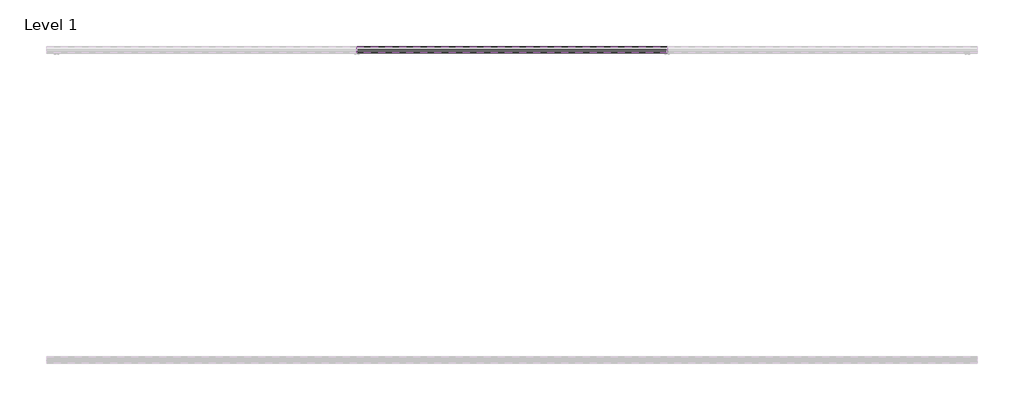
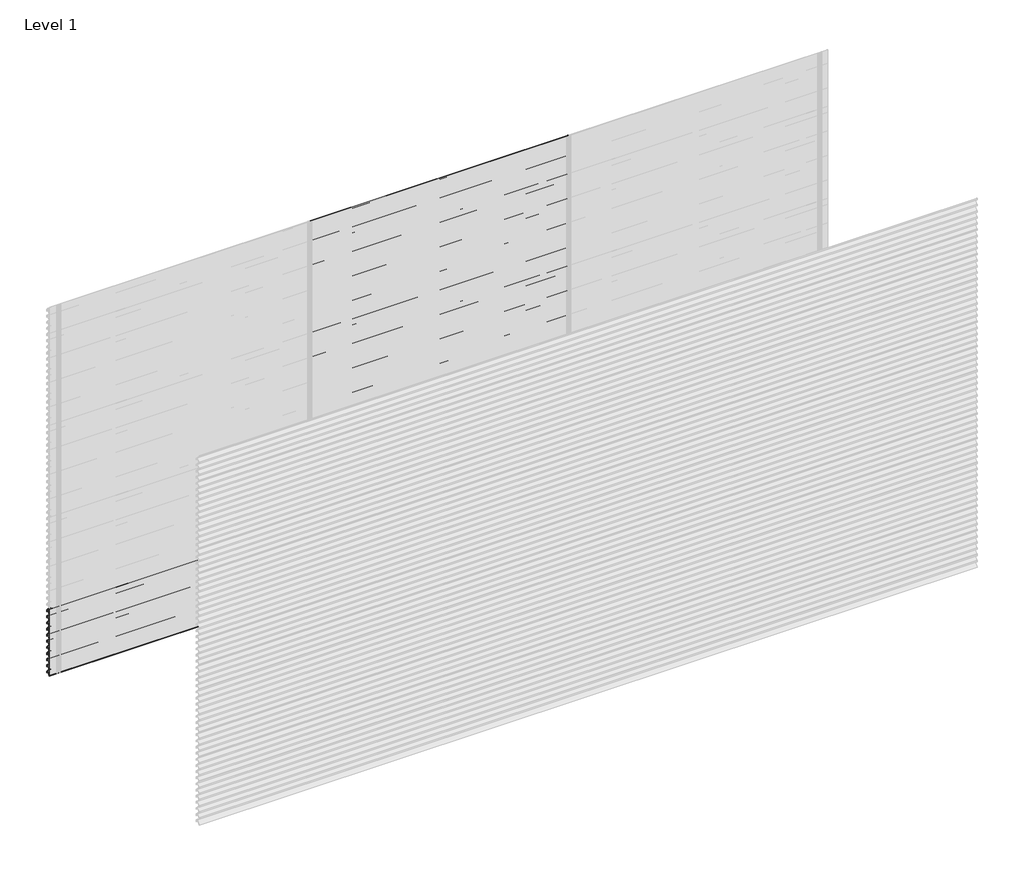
# One storey, part 37 of 38: 71 proxies.
"""IFC4 building model written with IfcOpenShell, lengths in millimetres."""

from ifc_helpers import new_model, si_unit, frame, origin, place, context, project, spatial, polyline, outline, extrude, element, save

model = new_model("IFC4")

# Units and contexts
model_context = context("Model", 3, world=origin())
ifc_project = project(units=[si_unit("LENGTHUNIT", "METRE", prefix="MILLI")], contexts=[model_context])

# Site, building, storey
site = spatial("IfcSite", under=ifc_project)
building = spatial("IfcBuilding", under=site)
storey = spatial("IfcBuildingStorey", under=building, Name="Level 1", Elevation=0.0)

# Proxies
placement = place(None, origin())
element("IfcBuildingElementProxy", 1, Name="Wall Sweeps", at=placement, inside=storey, context=model_context, shape_type="SweptSolid", body=[
    extrude(outline(polyline([(3.25, 550.0), (3.25, 539.19656), (25.3942887, 526.4115489), (43.0, 509.0472005), (43.0, 494.0472005), (41.7, 495.0268207), (41.7, 508.5034593), (30.5085275, 519.541504), (5.7202624, 490.0), (4.0232329, 490.0), (29.5799693, 520.4573323), (24.6000207, 525.3690091), (2.0, 538.4171371), (2.0, 550.0), (3.25, 550.0)])), frame((0.0, 0.0, 0.0), z_axis=(1.0, 0.0, 0.0), x_axis=(0.0, 1.0, 0.0)), (0.0, 0.0, 1.0), 2000.0),
])
element("IfcBuildingElementProxy", 2, Name="Wall Sweeps", at=placement, inside=storey, context=model_context, shape_type="SweptSolid", body=[
    extrude(outline(polyline([(3.25, 500.0), (3.25, 489.19656), (25.3942887, 476.4115489), (43.0, 459.0472005), (43.0, 444.0472005), (41.7, 445.0268207), (41.7, 458.5034593), (30.5085275, 469.541504), (5.7202624, 440.0), (4.0232329, 440.0), (29.5799693, 470.4573323), (24.6000207, 475.3690091), (2.0, 488.4171371), (2.0, 500.0), (3.25, 500.0)])), frame((0.0, 0.0, 0.0), z_axis=(1.0, 0.0, 0.0), x_axis=(0.0, 1.0, 0.0)), (0.0, 0.0, 1.0), 2000.0),
])
element("IfcBuildingElementProxy", 3, Name="Wall Sweeps", at=placement, inside=storey, context=model_context, shape_type="SweptSolid", body=[
    extrude(outline(polyline([(3.25, 450.0), (3.25, 439.19656), (25.3942887, 426.4115489), (43.0, 409.0472005), (43.0, 394.0472005), (41.7, 395.0268207), (41.7, 408.5034593), (30.5085275, 419.541504), (5.7202624, 390.0), (4.0232329, 390.0), (29.5799693, 420.4573323), (24.6000207, 425.3690091), (2.0, 438.4171371), (2.0, 450.0), (3.25, 450.0)])), frame((0.0, 0.0, 0.0), z_axis=(1.0, 0.0, 0.0), x_axis=(0.0, 1.0, 0.0)), (0.0, 0.0, 1.0), 2000.0),
])
element("IfcBuildingElementProxy", 4, Name="Wall Sweeps", at=placement, inside=storey, context=model_context, shape_type="SweptSolid", body=[
    extrude(outline(polyline([(3.25, 400.0), (3.25, 389.19656), (25.3942887, 376.4115489), (43.0, 359.0472005), (43.0, 344.0472005), (41.7, 345.0268207), (41.7, 358.5034593), (30.5085275, 369.541504), (5.7202624, 340.0), (4.0232329, 340.0), (29.5799693, 370.4573323), (24.6000207, 375.3690091), (2.0, 388.4171371), (2.0, 400.0), (3.25, 400.0)])), frame((0.0, 0.0, 0.0), z_axis=(1.0, 0.0, 0.0), x_axis=(0.0, 1.0, 0.0)), (0.0, 0.0, 1.0), 2000.0),
])
element("IfcBuildingElementProxy", 5, Name="Wall Sweeps", at=placement, inside=storey, context=model_context, shape_type="SweptSolid", body=[
    extrude(outline(polyline([(3.25, 350.0), (3.25, 339.19656), (25.3942887, 326.4115489), (43.0, 309.0472005), (43.0, 294.0472005), (41.7, 295.0268207), (41.7, 308.5034593), (30.5085275, 319.541504), (5.7202624, 290.0), (4.0232329, 290.0), (29.5799693, 320.4573323), (24.6000207, 325.3690091), (2.0, 338.4171371), (2.0, 350.0), (3.25, 350.0)])), frame((0.0, 0.0, 0.0), z_axis=(1.0, 0.0, 0.0), x_axis=(0.0, 1.0, 0.0)), (0.0, 0.0, 1.0), 2000.0),
])
element("IfcBuildingElementProxy", 6, Name="Wall Sweeps", at=placement, inside=storey, context=model_context, shape_type="SweptSolid", body=[
    extrude(outline(polyline([(3.25, 300.0), (3.25, 289.19656), (25.3942887, 276.4115489), (43.0, 259.0472005), (43.0, 244.0472005), (41.7, 245.0268207), (41.7, 258.5034593), (30.5085275, 269.541504), (5.7202624, 240.0), (4.0232329, 240.0), (29.5799693, 270.4573323), (24.6000207, 275.3690091), (2.0, 288.4171371), (2.0, 300.0), (3.25, 300.0)])), frame((0.0, 0.0, 0.0), z_axis=(1.0, 0.0, 0.0), x_axis=(0.0, 1.0, 0.0)), (0.0, 0.0, 1.0), 2000.0),
])
element("IfcBuildingElementProxy", 7, Name="Wall Sweeps", at=placement, inside=storey, context=model_context, shape_type="SweptSolid", body=[
    extrude(outline(polyline([(3.25, 250.0), (3.25, 239.19656), (25.3942887, 226.4115489), (43.0, 209.0472005), (43.0, 194.0472005), (41.7, 195.0268207), (41.7, 208.5034593), (30.5085275, 219.541504), (5.7202624, 190.0), (4.0232329, 190.0), (29.5799693, 220.4573323), (24.6000207, 225.3690091), (2.0, 238.4171371), (2.0, 250.0), (3.25, 250.0)])), frame((0.0, 0.0, 0.0), z_axis=(1.0, 0.0, 0.0), x_axis=(0.0, 1.0, 0.0)), (0.0, 0.0, 1.0), 2000.0),
])
element("IfcBuildingElementProxy", 8, Name="Wall Sweeps", at=placement, inside=storey, context=model_context, shape_type="SweptSolid", body=[
    extrude(outline(polyline([(3.25, 200.0), (3.25, 189.19656), (25.3942887, 176.4115489), (43.0, 159.0472005), (43.0, 144.0472005), (41.7, 145.0268207), (41.7, 158.5034593), (30.5085275, 169.541504), (5.7202624, 140.0), (4.0232329, 140.0), (29.5799693, 170.4573323), (24.6000207, 175.3690091), (2.0, 188.4171371), (2.0, 200.0), (3.25, 200.0)])), frame((0.0, 0.0, 0.0), z_axis=(1.0, 0.0, 0.0), x_axis=(0.0, 1.0, 0.0)), (0.0, 0.0, 1.0), 2000.0),
])
element("IfcBuildingElementProxy", 9, Name="Wall Sweeps", at=placement, inside=storey, context=model_context, shape_type="SweptSolid", body=[
    extrude(outline(polyline([(3.25, 150.0), (3.25, 139.19656), (25.3942887, 126.4115489), (43.0, 109.0472005), (43.0, 94.0472005), (41.7, 95.0268207), (41.7, 108.5034593), (30.5085275, 119.541504), (5.7202624, 90.0), (4.0232329, 90.0), (29.5799693, 120.4573323), (24.6000207, 125.3690091), (2.0, 138.4171371), (2.0, 150.0), (3.25, 150.0)])), frame((0.0, 0.0, 0.0), z_axis=(1.0, 0.0, 0.0), x_axis=(0.0, 1.0, 0.0)), (0.0, 0.0, 1.0), 2000.0),
])
element("IfcBuildingElementProxy", 10, Name="Wall Sweeps", at=placement, inside=storey, context=model_context, shape_type="SweptSolid", body=[
    extrude(outline(polyline([(3.25, 100.0), (3.25, 89.19656), (25.3942887, 76.4115489), (43.0, 59.0472005), (43.0, 44.0472005), (41.7, 45.0268207), (41.7, 58.5034593), (30.5085275, 69.541504), (5.7202624, 40.0), (4.0232329, 40.0), (29.5799693, 70.4573323), (24.6000207, 75.3690091), (2.0, 88.4171371), (2.0, 100.0), (3.25, 100.0)])), frame((0.0, 0.0, 0.0), z_axis=(1.0, 0.0, 0.0), x_axis=(0.0, 1.0, 0.0)), (0.0, 0.0, 1.0), 2000.0),
])
element("IfcBuildingElementProxy", 11, Name="Wall Sweeps", at=placement, inside=storey, context=model_context, shape_type="SweptSolid", body=[
    extrude(outline(polyline([(3.25, 50.0), (3.25, 39.19656), (25.3942887, 26.4115489), (43.0, 9.0472005), (43.0, -5.9527995), (41.7, -4.9731793), (41.7, 8.5034593), (30.5085275, 19.541504), (5.7202624, -10.0), (4.0232329, -10.0), (29.5799693, 20.4573323), (24.6000207, 25.3690091), (2.0, 38.4171371), (2.0, 50.0), (3.25, 50.0)])), frame((0.0, 0.0, 0.0), z_axis=(1.0, 0.0, 0.0), x_axis=(0.0, 1.0, 0.0)), (0.0, 0.0, 1.0), 2000.0),
])
element("IfcBuildingElementProxy", 12, Name="Wall Sweeps", at=placement, inside=storey, context=model_context, shape_type="SweptSolid", body=[
    extrude(outline(polyline([(3.25, 3000.0), (3.25, 2989.19656), (25.3942887, 2976.4115489), (43.0, 2959.0472005), (43.0, 2944.0472005), (41.7, 2945.0268207), (41.7, 2958.5034593), (30.5085275, 2969.541504), (5.7202624, 2940.0), (4.0232329, 2940.0), (29.5799693, 2970.4573323), (24.6000207, 2975.3690091), (2.0, 2988.4171371), (2.0, 3000.0), (3.25, 3000.0)])), frame((2000.0, 0.0, 0.0), z_axis=(1.0, 0.0, 0.0), x_axis=(0.0, 1.0, 0.0)), (0.0, 0.0, 1.0), 2000.0),
])
element("IfcBuildingElementProxy", 13, Name="Wall Sweeps", at=placement, inside=storey, context=model_context, shape_type="SweptSolid", body=[
    extrude(outline(polyline([(3.25, 2950.0), (3.25, 2939.19656), (25.3942887, 2926.4115489), (43.0, 2909.0472005), (43.0, 2894.0472005), (41.7, 2895.0268207), (41.7, 2908.5034593), (30.5085275, 2919.541504), (5.7202624, 2890.0), (4.0232329, 2890.0), (29.5799693, 2920.4573323), (24.6000207, 2925.3690091), (2.0, 2938.4171371), (2.0, 2950.0), (3.25, 2950.0)])), frame((2000.0, 0.0, 0.0), z_axis=(1.0, 0.0, 0.0), x_axis=(0.0, 1.0, 0.0)), (0.0, 0.0, 1.0), 2000.0),
])
element("IfcBuildingElementProxy", 14, Name="Wall Sweeps", at=placement, inside=storey, context=model_context, shape_type="SweptSolid", body=[
    extrude(outline(polyline([(3.25, 2900.0), (3.25, 2889.19656), (25.3942887, 2876.4115489), (43.0, 2859.0472005), (43.0, 2844.0472005), (41.7, 2845.0268207), (41.7, 2858.5034593), (30.5085275, 2869.541504), (5.7202624, 2840.0), (4.0232329, 2840.0), (29.5799693, 2870.4573323), (24.6000207, 2875.3690091), (2.0, 2888.4171371), (2.0, 2900.0), (3.25, 2900.0)])), frame((2000.0, 0.0, 0.0), z_axis=(1.0, 0.0, 0.0), x_axis=(0.0, 1.0, 0.0)), (0.0, 0.0, 1.0), 2000.0),
])
element("IfcBuildingElementProxy", 15, Name="Wall Sweeps", at=placement, inside=storey, context=model_context, shape_type="SweptSolid", body=[
    extrude(outline(polyline([(3.25, 2850.0), (3.25, 2839.19656), (25.3942887, 2826.4115489), (43.0, 2809.0472005), (43.0, 2794.0472005), (41.7, 2795.0268207), (41.7, 2808.5034593), (30.5085275, 2819.541504), (5.7202624, 2790.0), (4.0232329, 2790.0), (29.5799693, 2820.4573323), (24.6000207, 2825.3690091), (2.0, 2838.4171371), (2.0, 2850.0), (3.25, 2850.0)])), frame((2000.0, 0.0, 0.0), z_axis=(1.0, 0.0, 0.0), x_axis=(0.0, 1.0, 0.0)), (0.0, 0.0, 1.0), 2000.0),
])
element("IfcBuildingElementProxy", 16, Name="Wall Sweeps", at=placement, inside=storey, context=model_context, shape_type="SweptSolid", body=[
    extrude(outline(polyline([(3.25, 2800.0), (3.25, 2789.19656), (25.3942887, 2776.4115489), (43.0, 2759.0472005), (43.0, 2744.0472005), (41.7, 2745.0268207), (41.7, 2758.5034593), (30.5085275, 2769.541504), (5.7202624, 2740.0), (4.0232329, 2740.0), (29.5799693, 2770.4573323), (24.6000207, 2775.3690091), (2.0, 2788.4171371), (2.0, 2800.0), (3.25, 2800.0)])), frame((2000.0, 0.0, 0.0), z_axis=(1.0, 0.0, 0.0), x_axis=(0.0, 1.0, 0.0)), (0.0, 0.0, 1.0), 2000.0),
])
element("IfcBuildingElementProxy", 17, Name="Wall Sweeps", at=placement, inside=storey, context=model_context, shape_type="SweptSolid", body=[
    extrude(outline(polyline([(3.25, 2750.0), (3.25, 2739.19656), (25.3942887, 2726.4115489), (43.0, 2709.0472005), (43.0, 2694.0472005), (41.7, 2695.0268207), (41.7, 2708.5034593), (30.5085275, 2719.541504), (5.7202624, 2690.0), (4.0232329, 2690.0), (29.5799693, 2720.4573323), (24.6000207, 2725.3690091), (2.0, 2738.4171371), (2.0, 2750.0), (3.25, 2750.0)])), frame((2000.0, 0.0, 0.0), z_axis=(1.0, 0.0, 0.0), x_axis=(0.0, 1.0, 0.0)), (0.0, 0.0, 1.0), 2000.0),
])
element("IfcBuildingElementProxy", 18, Name="Wall Sweeps", at=placement, inside=storey, context=model_context, shape_type="SweptSolid", body=[
    extrude(outline(polyline([(3.25, 2700.0), (3.25, 2689.19656), (25.3942887, 2676.4115489), (43.0, 2659.0472005), (43.0, 2644.0472005), (41.7, 2645.0268207), (41.7, 2658.5034593), (30.5085275, 2669.541504), (5.7202624, 2640.0), (4.0232329, 2640.0), (29.5799693, 2670.4573323), (24.6000207, 2675.3690091), (2.0, 2688.4171371), (2.0, 2700.0), (3.25, 2700.0)])), frame((2000.0, 0.0, 0.0), z_axis=(1.0, 0.0, 0.0), x_axis=(0.0, 1.0, 0.0)), (0.0, 0.0, 1.0), 2000.0),
])
element("IfcBuildingElementProxy", 19, Name="Wall Sweeps", at=placement, inside=storey, context=model_context, shape_type="SweptSolid", body=[
    extrude(outline(polyline([(3.25, 2650.0), (3.25, 2639.19656), (25.3942887, 2626.4115489), (43.0, 2609.0472005), (43.0, 2594.0472005), (41.7, 2595.0268207), (41.7, 2608.5034593), (30.5085275, 2619.541504), (5.7202624, 2590.0), (4.0232329, 2590.0), (29.5799693, 2620.4573323), (24.6000207, 2625.3690091), (2.0, 2638.4171371), (2.0, 2650.0), (3.25, 2650.0)])), frame((2000.0, 0.0, 0.0), z_axis=(1.0, 0.0, 0.0), x_axis=(0.0, 1.0, 0.0)), (0.0, 0.0, 1.0), 2000.0),
])
element("IfcBuildingElementProxy", 20, Name="Wall Sweeps", at=placement, inside=storey, context=model_context, shape_type="SweptSolid", body=[
    extrude(outline(polyline([(3.25, 2600.0), (3.25, 2589.19656), (25.3942887, 2576.4115489), (43.0, 2559.0472005), (43.0, 2544.0472005), (41.7, 2545.0268207), (41.7, 2558.5034593), (30.5085275, 2569.541504), (5.7202624, 2540.0), (4.0232329, 2540.0), (29.5799693, 2570.4573323), (24.6000207, 2575.3690091), (2.0, 2588.4171371), (2.0, 2600.0), (3.25, 2600.0)])), frame((2000.0, 0.0, 0.0), z_axis=(1.0, 0.0, 0.0), x_axis=(0.0, 1.0, 0.0)), (0.0, 0.0, 1.0), 2000.0),
])
element("IfcBuildingElementProxy", 21, Name="Wall Sweeps", at=placement, inside=storey, context=model_context, shape_type="SweptSolid", body=[
    extrude(outline(polyline([(3.25, 2550.0), (3.25, 2539.19656), (25.3942887, 2526.4115489), (43.0, 2509.0472005), (43.0, 2494.0472005), (41.7, 2495.0268207), (41.7, 2508.5034593), (30.5085275, 2519.541504), (5.7202624, 2490.0), (4.0232329, 2490.0), (29.5799693, 2520.4573323), (24.6000207, 2525.3690091), (2.0, 2538.4171371), (2.0, 2550.0), (3.25, 2550.0)])), frame((2000.0, 0.0, 0.0), z_axis=(1.0, 0.0, 0.0), x_axis=(0.0, 1.0, 0.0)), (0.0, 0.0, 1.0), 2000.0),
])
element("IfcBuildingElementProxy", 22, Name="Wall Sweeps", at=placement, inside=storey, context=model_context, shape_type="SweptSolid", body=[
    extrude(outline(polyline([(3.25, 2500.0), (3.25, 2489.19656), (25.3942887, 2476.4115489), (43.0, 2459.0472005), (43.0, 2444.0472005), (41.7, 2445.0268207), (41.7, 2458.5034593), (30.5085275, 2469.541504), (5.7202624, 2440.0), (4.0232329, 2440.0), (29.5799693, 2470.4573323), (24.6000207, 2475.3690091), (2.0, 2488.4171371), (2.0, 2500.0), (3.25, 2500.0)])), frame((2000.0, 0.0, 0.0), z_axis=(1.0, 0.0, 0.0), x_axis=(0.0, 1.0, 0.0)), (0.0, 0.0, 1.0), 2000.0),
])
element("IfcBuildingElementProxy", 23, Name="Wall Sweeps", at=placement, inside=storey, context=model_context, shape_type="SweptSolid", body=[
    extrude(outline(polyline([(3.25, 2450.0), (3.25, 2439.19656), (25.3942887, 2426.4115489), (43.0, 2409.0472005), (43.0, 2394.0472005), (41.7, 2395.0268207), (41.7, 2408.5034593), (30.5085275, 2419.541504), (5.7202624, 2390.0), (4.0232329, 2390.0), (29.5799693, 2420.4573323), (24.6000207, 2425.3690091), (2.0, 2438.4171371), (2.0, 2450.0), (3.25, 2450.0)])), frame((2000.0, 0.0, 0.0), z_axis=(1.0, 0.0, 0.0), x_axis=(0.0, 1.0, 0.0)), (0.0, 0.0, 1.0), 2000.0),
])
element("IfcBuildingElementProxy", 24, Name="Wall Sweeps", at=placement, inside=storey, context=model_context, shape_type="SweptSolid", body=[
    extrude(outline(polyline([(3.25, 2400.0), (3.25, 2389.19656), (25.3942887, 2376.4115489), (43.0, 2359.0472005), (43.0, 2344.0472005), (41.7, 2345.0268207), (41.7, 2358.5034593), (30.5085275, 2369.541504), (5.7202624, 2340.0), (4.0232329, 2340.0), (29.5799693, 2370.4573323), (24.6000207, 2375.3690091), (2.0, 2388.4171371), (2.0, 2400.0), (3.25, 2400.0)])), frame((2000.0, 0.0, 0.0), z_axis=(1.0, 0.0, 0.0), x_axis=(0.0, 1.0, 0.0)), (0.0, 0.0, 1.0), 2000.0),
])
element("IfcBuildingElementProxy", 25, Name="Wall Sweeps", at=placement, inside=storey, context=model_context, shape_type="SweptSolid", body=[
    extrude(outline(polyline([(3.25, 2350.0), (3.25, 2339.19656), (25.3942887, 2326.4115489), (43.0, 2309.0472005), (43.0, 2294.0472005), (41.7, 2295.0268207), (41.7, 2308.5034593), (30.5085275, 2319.541504), (5.7202624, 2290.0), (4.0232329, 2290.0), (29.5799693, 2320.4573323), (24.6000207, 2325.3690091), (2.0, 2338.4171371), (2.0, 2350.0), (3.25, 2350.0)])), frame((2000.0, 0.0, 0.0), z_axis=(1.0, 0.0, 0.0), x_axis=(0.0, 1.0, 0.0)), (0.0, 0.0, 1.0), 2000.0),
])
element("IfcBuildingElementProxy", 26, Name="Wall Sweeps", at=placement, inside=storey, context=model_context, shape_type="SweptSolid", body=[
    extrude(outline(polyline([(3.25, 2300.0), (3.25, 2289.19656), (25.3942887, 2276.4115489), (43.0, 2259.0472005), (43.0, 2244.0472005), (41.7, 2245.0268207), (41.7, 2258.5034593), (30.5085275, 2269.541504), (5.7202624, 2240.0), (4.0232329, 2240.0), (29.5799693, 2270.4573323), (24.6000207, 2275.3690091), (2.0, 2288.4171371), (2.0, 2300.0), (3.25, 2300.0)])), frame((2000.0, 0.0, 0.0), z_axis=(1.0, 0.0, 0.0), x_axis=(0.0, 1.0, 0.0)), (0.0, 0.0, 1.0), 2000.0),
])
element("IfcBuildingElementProxy", 27, Name="Wall Sweeps", at=placement, inside=storey, context=model_context, shape_type="SweptSolid", body=[
    extrude(outline(polyline([(3.25, 2250.0), (3.25, 2239.19656), (25.3942887, 2226.4115489), (43.0, 2209.0472005), (43.0, 2194.0472005), (41.7, 2195.0268207), (41.7, 2208.5034593), (30.5085275, 2219.541504), (5.7202624, 2190.0), (4.0232329, 2190.0), (29.5799693, 2220.4573323), (24.6000207, 2225.3690091), (2.0, 2238.4171371), (2.0, 2250.0), (3.25, 2250.0)])), frame((2000.0, 0.0, 0.0), z_axis=(1.0, 0.0, 0.0), x_axis=(0.0, 1.0, 0.0)), (0.0, 0.0, 1.0), 2000.0),
])
element("IfcBuildingElementProxy", 28, Name="Wall Sweeps", at=placement, inside=storey, context=model_context, shape_type="SweptSolid", body=[
    extrude(outline(polyline([(3.25, 2200.0), (3.25, 2189.19656), (25.3942887, 2176.4115489), (43.0, 2159.0472005), (43.0, 2144.0472005), (41.7, 2145.0268207), (41.7, 2158.5034593), (30.5085275, 2169.541504), (5.7202624, 2140.0), (4.0232329, 2140.0), (29.5799693, 2170.4573323), (24.6000207, 2175.3690091), (2.0, 2188.4171371), (2.0, 2200.0), (3.25, 2200.0)])), frame((2000.0, 0.0, 0.0), z_axis=(1.0, 0.0, 0.0), x_axis=(0.0, 1.0, 0.0)), (0.0, 0.0, 1.0), 2000.0),
])
element("IfcBuildingElementProxy", 29, Name="Wall Sweeps", at=placement, inside=storey, context=model_context, shape_type="SweptSolid", body=[
    extrude(outline(polyline([(3.25, 2150.0), (3.25, 2139.19656), (25.3942887, 2126.4115489), (43.0, 2109.0472005), (43.0, 2094.0472005), (41.7, 2095.0268207), (41.7, 2108.5034593), (30.5085275, 2119.541504), (5.7202624, 2090.0), (4.0232329, 2090.0), (29.5799693, 2120.4573323), (24.6000207, 2125.3690091), (2.0, 2138.4171371), (2.0, 2150.0), (3.25, 2150.0)])), frame((2000.0, 0.0, 0.0), z_axis=(1.0, 0.0, 0.0), x_axis=(0.0, 1.0, 0.0)), (0.0, 0.0, 1.0), 2000.0),
])
element("IfcBuildingElementProxy", 30, Name="Wall Sweeps", at=placement, inside=storey, context=model_context, shape_type="SweptSolid", body=[
    extrude(outline(polyline([(3.25, 2100.0), (3.25, 2089.19656), (25.3942887, 2076.4115489), (43.0, 2059.0472005), (43.0, 2044.0472005), (41.7, 2045.0268207), (41.7, 2058.5034593), (30.5085275, 2069.541504), (5.7202624, 2040.0), (4.0232329, 2040.0), (29.5799693, 2070.4573323), (24.6000207, 2075.3690091), (2.0, 2088.4171371), (2.0, 2100.0), (3.25, 2100.0)])), frame((2000.0, 0.0, 0.0), z_axis=(1.0, 0.0, 0.0), x_axis=(0.0, 1.0, 0.0)), (0.0, 0.0, 1.0), 2000.0),
])
element("IfcBuildingElementProxy", 31, Name="Wall Sweeps", at=placement, inside=storey, context=model_context, shape_type="SweptSolid", body=[
    extrude(outline(polyline([(3.25, 2050.0), (3.25, 2039.19656), (25.3942887, 2026.4115489), (43.0, 2009.0472005), (43.0, 1994.0472005), (41.7, 1995.0268207), (41.7, 2008.5034593), (30.5085275, 2019.541504), (5.7202624, 1990.0), (4.0232329, 1990.0), (29.5799693, 2020.4573323), (24.6000207, 2025.3690091), (2.0, 2038.4171371), (2.0, 2050.0), (3.25, 2050.0)])), frame((2000.0, 0.0, 0.0), z_axis=(1.0, 0.0, 0.0), x_axis=(0.0, 1.0, 0.0)), (0.0, 0.0, 1.0), 2000.0),
])
element("IfcBuildingElementProxy", 32, Name="Wall Sweeps", at=placement, inside=storey, context=model_context, shape_type="SweptSolid", body=[
    extrude(outline(polyline([(3.25, 2000.0), (3.25, 1989.19656), (25.3942887, 1976.4115489), (43.0, 1959.0472005), (43.0, 1944.0472005), (41.7, 1945.0268207), (41.7, 1958.5034593), (30.5085275, 1969.541504), (5.7202624, 1940.0), (4.0232329, 1940.0), (29.5799693, 1970.4573323), (24.6000207, 1975.3690091), (2.0, 1988.4171371), (2.0, 2000.0), (3.25, 2000.0)])), frame((2000.0, 0.0, 0.0), z_axis=(1.0, 0.0, 0.0), x_axis=(0.0, 1.0, 0.0)), (0.0, 0.0, 1.0), 2000.0),
])
element("IfcBuildingElementProxy", 33, Name="Wall Sweeps", at=placement, inside=storey, context=model_context, shape_type="SweptSolid", body=[
    extrude(outline(polyline([(3.25, 1950.0), (3.25, 1939.19656), (25.3942887, 1926.4115489), (43.0, 1909.0472005), (43.0, 1894.0472005), (41.7, 1895.0268207), (41.7, 1908.5034593), (30.5085275, 1919.541504), (5.7202624, 1890.0), (4.0232329, 1890.0), (29.5799693, 1920.4573323), (24.6000207, 1925.3690091), (2.0, 1938.4171371), (2.0, 1950.0), (3.25, 1950.0)])), frame((2000.0, 0.0, 0.0), z_axis=(1.0, 0.0, 0.0), x_axis=(0.0, 1.0, 0.0)), (0.0, 0.0, 1.0), 2000.0),
])
element("IfcBuildingElementProxy", 34, Name="Wall Sweeps", at=placement, inside=storey, context=model_context, shape_type="SweptSolid", body=[
    extrude(outline(polyline([(3.25, 1900.0), (3.25, 1889.19656), (25.3942887, 1876.4115489), (43.0, 1859.0472005), (43.0, 1844.0472005), (41.7, 1845.0268207), (41.7, 1858.5034593), (30.5085275, 1869.541504), (5.7202624, 1840.0), (4.0232329, 1840.0), (29.5799693, 1870.4573323), (24.6000207, 1875.3690091), (2.0, 1888.4171371), (2.0, 1900.0), (3.25, 1900.0)])), frame((2000.0, 0.0, 0.0), z_axis=(1.0, 0.0, 0.0), x_axis=(0.0, 1.0, 0.0)), (0.0, 0.0, 1.0), 2000.0),
])
element("IfcBuildingElementProxy", 35, Name="Wall Sweeps", at=placement, inside=storey, context=model_context, shape_type="SweptSolid", body=[
    extrude(outline(polyline([(3.25, 1850.0), (3.25, 1839.19656), (25.3942887, 1826.4115489), (43.0, 1809.0472005), (43.0, 1794.0472005), (41.7, 1795.0268207), (41.7, 1808.5034593), (30.5085275, 1819.541504), (5.7202624, 1790.0), (4.0232329, 1790.0), (29.5799693, 1820.4573323), (24.6000207, 1825.3690091), (2.0, 1838.4171371), (2.0, 1850.0), (3.25, 1850.0)])), frame((2000.0, 0.0, 0.0), z_axis=(1.0, 0.0, 0.0), x_axis=(0.0, 1.0, 0.0)), (0.0, 0.0, 1.0), 2000.0),
])
element("IfcBuildingElementProxy", 36, Name="Wall Sweeps", at=placement, inside=storey, context=model_context, shape_type="SweptSolid", body=[
    extrude(outline(polyline([(3.25, 1800.0), (3.25, 1789.19656), (25.3942887, 1776.4115489), (43.0, 1759.0472005), (43.0, 1744.0472005), (41.7, 1745.0268207), (41.7, 1758.5034593), (30.5085275, 1769.541504), (5.7202624, 1740.0), (4.0232329, 1740.0), (29.5799693, 1770.4573323), (24.6000207, 1775.3690091), (2.0, 1788.4171371), (2.0, 1800.0), (3.25, 1800.0)])), frame((2000.0, 0.0, 0.0), z_axis=(1.0, 0.0, 0.0), x_axis=(0.0, 1.0, 0.0)), (0.0, 0.0, 1.0), 2000.0),
])
element("IfcBuildingElementProxy", 37, Name="Wall Sweeps", at=placement, inside=storey, context=model_context, shape_type="SweptSolid", body=[
    extrude(outline(polyline([(3.25, 1750.0), (3.25, 1739.19656), (25.3942887, 1726.4115489), (43.0, 1709.0472005), (43.0, 1694.0472005), (41.7, 1695.0268207), (41.7, 1708.5034593), (30.5085275, 1719.541504), (5.7202624, 1690.0), (4.0232329, 1690.0), (29.5799693, 1720.4573323), (24.6000207, 1725.3690091), (2.0, 1738.4171371), (2.0, 1750.0), (3.25, 1750.0)])), frame((2000.0, 0.0, 0.0), z_axis=(1.0, 0.0, 0.0), x_axis=(0.0, 1.0, 0.0)), (0.0, 0.0, 1.0), 2000.0),
])
element("IfcBuildingElementProxy", 38, Name="Wall Sweeps", at=placement, inside=storey, context=model_context, shape_type="SweptSolid", body=[
    extrude(outline(polyline([(3.25, 1700.0), (3.25, 1689.19656), (25.3942887, 1676.4115489), (43.0, 1659.0472005), (43.0, 1644.0472005), (41.7, 1645.0268207), (41.7, 1658.5034593), (30.5085275, 1669.541504), (5.7202624, 1640.0), (4.0232329, 1640.0), (29.5799693, 1670.4573323), (24.6000207, 1675.3690091), (2.0, 1688.4171371), (2.0, 1700.0), (3.25, 1700.0)])), frame((2000.0, 0.0, 0.0), z_axis=(1.0, 0.0, 0.0), x_axis=(0.0, 1.0, 0.0)), (0.0, 0.0, 1.0), 2000.0),
])
element("IfcBuildingElementProxy", 39, Name="Wall Sweeps", at=placement, inside=storey, context=model_context, shape_type="SweptSolid", body=[
    extrude(outline(polyline([(3.25, 1650.0), (3.25, 1639.19656), (25.3942887, 1626.4115489), (43.0, 1609.0472005), (43.0, 1594.0472005), (41.7, 1595.0268207), (41.7, 1608.5034593), (30.5085275, 1619.541504), (5.7202624, 1590.0), (4.0232329, 1590.0), (29.5799693, 1620.4573323), (24.6000207, 1625.3690091), (2.0, 1638.4171371), (2.0, 1650.0), (3.25, 1650.0)])), frame((2000.0, 0.0, 0.0), z_axis=(1.0, 0.0, 0.0), x_axis=(0.0, 1.0, 0.0)), (0.0, 0.0, 1.0), 2000.0),
])
element("IfcBuildingElementProxy", 40, Name="Wall Sweeps", at=placement, inside=storey, context=model_context, shape_type="SweptSolid", body=[
    extrude(outline(polyline([(3.25, 1600.0), (3.25, 1589.19656), (25.3942887, 1576.4115489), (43.0, 1559.0472005), (43.0, 1544.0472005), (41.7, 1545.0268207), (41.7, 1558.5034593), (30.5085275, 1569.541504), (5.7202624, 1540.0), (4.0232329, 1540.0), (29.5799693, 1570.4573323), (24.6000207, 1575.3690091), (2.0, 1588.4171371), (2.0, 1600.0), (3.25, 1600.0)])), frame((2000.0, 0.0, 0.0), z_axis=(1.0, 0.0, 0.0), x_axis=(0.0, 1.0, 0.0)), (0.0, 0.0, 1.0), 2000.0),
])
element("IfcBuildingElementProxy", 41, Name="Wall Sweeps", at=placement, inside=storey, context=model_context, shape_type="SweptSolid", body=[
    extrude(outline(polyline([(3.25, 1550.0), (3.25, 1539.19656), (25.3942887, 1526.4115489), (43.0, 1509.0472005), (43.0, 1494.0472005), (41.7, 1495.0268207), (41.7, 1508.5034593), (30.5085275, 1519.541504), (5.7202624, 1490.0), (4.0232329, 1490.0), (29.5799693, 1520.4573323), (24.6000207, 1525.3690091), (2.0, 1538.4171371), (2.0, 1550.0), (3.25, 1550.0)])), frame((2000.0, 0.0, 0.0), z_axis=(1.0, 0.0, 0.0), x_axis=(0.0, 1.0, 0.0)), (0.0, 0.0, 1.0), 2000.0),
])
element("IfcBuildingElementProxy", 42, Name="Wall Sweeps", at=placement, inside=storey, context=model_context, shape_type="SweptSolid", body=[
    extrude(outline(polyline([(3.25, 1500.0), (3.25, 1489.19656), (25.3942887, 1476.4115489), (43.0, 1459.0472005), (43.0, 1444.0472005), (41.7, 1445.0268207), (41.7, 1458.5034593), (30.5085275, 1469.541504), (5.7202624, 1440.0), (4.0232329, 1440.0), (29.5799693, 1470.4573323), (24.6000207, 1475.3690091), (2.0, 1488.4171371), (2.0, 1500.0), (3.25, 1500.0)])), frame((2000.0, 0.0, 0.0), z_axis=(1.0, 0.0, 0.0), x_axis=(0.0, 1.0, 0.0)), (0.0, 0.0, 1.0), 2000.0),
])
element("IfcBuildingElementProxy", 43, Name="Wall Sweeps", at=placement, inside=storey, context=model_context, shape_type="SweptSolid", body=[
    extrude(outline(polyline([(3.25, 1450.0), (3.25, 1439.19656), (25.3942887, 1426.4115489), (43.0, 1409.0472005), (43.0, 1394.0472005), (41.7, 1395.0268207), (41.7, 1408.5034593), (30.5085275, 1419.541504), (5.7202624, 1390.0), (4.0232329, 1390.0), (29.5799693, 1420.4573323), (24.6000207, 1425.3690091), (2.0, 1438.4171371), (2.0, 1450.0), (3.25, 1450.0)])), frame((2000.0, 0.0, 0.0), z_axis=(1.0, 0.0, 0.0), x_axis=(0.0, 1.0, 0.0)), (0.0, 0.0, 1.0), 2000.0),
])
element("IfcBuildingElementProxy", 44, Name="Wall Sweeps", at=placement, inside=storey, context=model_context, shape_type="SweptSolid", body=[
    extrude(outline(polyline([(3.25, 1400.0), (3.25, 1389.19656), (25.3942887, 1376.4115489), (43.0, 1359.0472005), (43.0, 1344.0472005), (41.7, 1345.0268207), (41.7, 1358.5034593), (30.5085275, 1369.541504), (5.7202624, 1340.0), (4.0232329, 1340.0), (29.5799693, 1370.4573323), (24.6000207, 1375.3690091), (2.0, 1388.4171371), (2.0, 1400.0), (3.25, 1400.0)])), frame((2000.0, 0.0, 0.0), z_axis=(1.0, 0.0, 0.0), x_axis=(0.0, 1.0, 0.0)), (0.0, 0.0, 1.0), 2000.0),
])
element("IfcBuildingElementProxy", 45, Name="Wall Sweeps", at=placement, inside=storey, context=model_context, shape_type="SweptSolid", body=[
    extrude(outline(polyline([(3.25, 1350.0), (3.25, 1339.19656), (25.3942887, 1326.4115489), (43.0, 1309.0472005), (43.0, 1294.0472005), (41.7, 1295.0268207), (41.7, 1308.5034593), (30.5085275, 1319.541504), (5.7202624, 1290.0), (4.0232329, 1290.0), (29.5799693, 1320.4573323), (24.6000207, 1325.3690091), (2.0, 1338.4171371), (2.0, 1350.0), (3.25, 1350.0)])), frame((2000.0, 0.0, 0.0), z_axis=(1.0, 0.0, 0.0), x_axis=(0.0, 1.0, 0.0)), (0.0, 0.0, 1.0), 2000.0),
])
element("IfcBuildingElementProxy", 46, Name="Wall Sweeps", at=placement, inside=storey, context=model_context, shape_type="SweptSolid", body=[
    extrude(outline(polyline([(3.25, 1300.0), (3.25, 1289.19656), (25.3942887, 1276.4115489), (43.0, 1259.0472005), (43.0, 1244.0472005), (41.7, 1245.0268207), (41.7, 1258.5034593), (30.5085275, 1269.541504), (5.7202624, 1240.0), (4.0232329, 1240.0), (29.5799693, 1270.4573323), (24.6000207, 1275.3690091), (2.0, 1288.4171371), (2.0, 1300.0), (3.25, 1300.0)])), frame((2000.0, 0.0, 0.0), z_axis=(1.0, 0.0, 0.0), x_axis=(0.0, 1.0, 0.0)), (0.0, 0.0, 1.0), 2000.0),
])
element("IfcBuildingElementProxy", 47, Name="Wall Sweeps", at=placement, inside=storey, context=model_context, shape_type="SweptSolid", body=[
    extrude(outline(polyline([(3.25, 1250.0), (3.25, 1239.19656), (25.3942887, 1226.4115489), (43.0, 1209.0472005), (43.0, 1194.0472005), (41.7, 1195.0268207), (41.7, 1208.5034593), (30.5085275, 1219.541504), (5.7202624, 1190.0), (4.0232329, 1190.0), (29.5799693, 1220.4573323), (24.6000207, 1225.3690091), (2.0, 1238.4171371), (2.0, 1250.0), (3.25, 1250.0)])), frame((2000.0, 0.0, 0.0), z_axis=(1.0, 0.0, 0.0), x_axis=(0.0, 1.0, 0.0)), (0.0, 0.0, 1.0), 2000.0),
])
element("IfcBuildingElementProxy", 48, Name="Wall Sweeps", at=placement, inside=storey, context=model_context, shape_type="SweptSolid", body=[
    extrude(outline(polyline([(3.25, 1200.0), (3.25, 1189.19656), (25.3942887, 1176.4115489), (43.0, 1159.0472005), (43.0, 1144.0472005), (41.7, 1145.0268207), (41.7, 1158.5034593), (30.5085275, 1169.541504), (5.7202624, 1140.0), (4.0232329, 1140.0), (29.5799693, 1170.4573323), (24.6000207, 1175.3690091), (2.0, 1188.4171371), (2.0, 1200.0), (3.25, 1200.0)])), frame((2000.0, 0.0, 0.0), z_axis=(1.0, 0.0, 0.0), x_axis=(0.0, 1.0, 0.0)), (0.0, 0.0, 1.0), 2000.0),
])
element("IfcBuildingElementProxy", 49, Name="Wall Sweeps", at=placement, inside=storey, context=model_context, shape_type="SweptSolid", body=[
    extrude(outline(polyline([(3.25, 1150.0), (3.25, 1139.19656), (25.3942887, 1126.4115489), (43.0, 1109.0472005), (43.0, 1094.0472005), (41.7, 1095.0268207), (41.7, 1108.5034593), (30.5085275, 1119.541504), (5.7202624, 1090.0), (4.0232329, 1090.0), (29.5799693, 1120.4573323), (24.6000207, 1125.3690091), (2.0, 1138.4171371), (2.0, 1150.0), (3.25, 1150.0)])), frame((2000.0, 0.0, 0.0), z_axis=(1.0, 0.0, 0.0), x_axis=(0.0, 1.0, 0.0)), (0.0, 0.0, 1.0), 2000.0),
])
element("IfcBuildingElementProxy", 50, Name="Wall Sweeps", at=placement, inside=storey, context=model_context, shape_type="SweptSolid", body=[
    extrude(outline(polyline([(3.25, 1100.0), (3.25, 1089.19656), (25.3942887, 1076.4115489), (43.0, 1059.0472005), (43.0, 1044.0472005), (41.7, 1045.0268207), (41.7, 1058.5034593), (30.5085275, 1069.541504), (5.7202624, 1040.0), (4.0232329, 1040.0), (29.5799693, 1070.4573323), (24.6000207, 1075.3690091), (2.0, 1088.4171371), (2.0, 1100.0), (3.25, 1100.0)])), frame((2000.0, 0.0, 0.0), z_axis=(1.0, 0.0, 0.0), x_axis=(0.0, 1.0, 0.0)), (0.0, 0.0, 1.0), 2000.0),
])
element("IfcBuildingElementProxy", 51, Name="Wall Sweeps", at=placement, inside=storey, context=model_context, shape_type="SweptSolid", body=[
    extrude(outline(polyline([(3.25, 1050.0), (3.25, 1039.19656), (25.3942887, 1026.4115489), (43.0, 1009.0472005), (43.0, 994.0472005), (41.7, 995.0268207), (41.7, 1008.5034593), (30.5085275, 1019.541504), (5.7202624, 990.0), (4.0232329, 990.0), (29.5799693, 1020.4573323), (24.6000207, 1025.3690091), (2.0, 1038.4171371), (2.0, 1050.0), (3.25, 1050.0)])), frame((2000.0, 0.0, 0.0), z_axis=(1.0, 0.0, 0.0), x_axis=(0.0, 1.0, 0.0)), (0.0, 0.0, 1.0), 2000.0),
])
element("IfcBuildingElementProxy", 52, Name="Wall Sweeps", at=placement, inside=storey, context=model_context, shape_type="SweptSolid", body=[
    extrude(outline(polyline([(3.25, 1000.0), (3.25, 989.19656), (25.3942887, 976.4115489), (43.0, 959.0472005), (43.0, 944.0472005), (41.7, 945.0268207), (41.7, 958.5034593), (30.5085275, 969.541504), (5.7202624, 940.0), (4.0232329, 940.0), (29.5799693, 970.4573323), (24.6000207, 975.3690091), (2.0, 988.4171371), (2.0, 1000.0), (3.25, 1000.0)])), frame((2000.0, 0.0, 0.0), z_axis=(1.0, 0.0, 0.0), x_axis=(0.0, 1.0, 0.0)), (0.0, 0.0, 1.0), 2000.0),
])
element("IfcBuildingElementProxy", 53, Name="Wall Sweeps", at=placement, inside=storey, context=model_context, shape_type="SweptSolid", body=[
    extrude(outline(polyline([(3.25, 950.0), (3.25, 939.19656), (25.3942887, 926.4115489), (43.0, 909.0472005), (43.0, 894.0472005), (41.7, 895.0268207), (41.7, 908.5034593), (30.5085275, 919.541504), (5.7202624, 890.0), (4.0232329, 890.0), (29.5799693, 920.4573323), (24.6000207, 925.3690091), (2.0, 938.4171371), (2.0, 950.0), (3.25, 950.0)])), frame((2000.0, 0.0, 0.0), z_axis=(1.0, 0.0, 0.0), x_axis=(0.0, 1.0, 0.0)), (0.0, 0.0, 1.0), 2000.0),
])
element("IfcBuildingElementProxy", 54, Name="Wall Sweeps", at=placement, inside=storey, context=model_context, shape_type="SweptSolid", body=[
    extrude(outline(polyline([(3.25, 900.0), (3.25, 889.19656), (25.3942887, 876.4115489), (43.0, 859.0472005), (43.0, 844.0472005), (41.7, 845.0268207), (41.7, 858.5034593), (30.5085275, 869.541504), (5.7202624, 840.0), (4.0232329, 840.0), (29.5799693, 870.4573323), (24.6000207, 875.3690091), (2.0, 888.4171371), (2.0, 900.0), (3.25, 900.0)])), frame((2000.0, 0.0, 0.0), z_axis=(1.0, 0.0, 0.0), x_axis=(0.0, 1.0, 0.0)), (0.0, 0.0, 1.0), 2000.0),
])
element("IfcBuildingElementProxy", 55, Name="Wall Sweeps", at=placement, inside=storey, context=model_context, shape_type="SweptSolid", body=[
    extrude(outline(polyline([(3.25, 850.0), (3.25, 839.19656), (25.3942887, 826.4115489), (43.0, 809.0472005), (43.0, 794.0472005), (41.7, 795.0268207), (41.7, 808.5034593), (30.5085275, 819.541504), (5.7202624, 790.0), (4.0232329, 790.0), (29.5799693, 820.4573323), (24.6000207, 825.3690091), (2.0, 838.4171371), (2.0, 850.0), (3.25, 850.0)])), frame((2000.0, 0.0, 0.0), z_axis=(1.0, 0.0, 0.0), x_axis=(0.0, 1.0, 0.0)), (0.0, 0.0, 1.0), 2000.0),
])
element("IfcBuildingElementProxy", 56, Name="Wall Sweeps", at=placement, inside=storey, context=model_context, shape_type="SweptSolid", body=[
    extrude(outline(polyline([(3.25, 800.0), (3.25, 789.19656), (25.3942887, 776.4115489), (43.0, 759.0472005), (43.0, 744.0472005), (41.7, 745.0268207), (41.7, 758.5034593), (30.5085275, 769.541504), (5.7202624, 740.0), (4.0232329, 740.0), (29.5799693, 770.4573323), (24.6000207, 775.3690091), (2.0, 788.4171371), (2.0, 800.0), (3.25, 800.0)])), frame((2000.0, 0.0, 0.0), z_axis=(1.0, 0.0, 0.0), x_axis=(0.0, 1.0, 0.0)), (0.0, 0.0, 1.0), 2000.0),
])
element("IfcBuildingElementProxy", 57, Name="Wall Sweeps", at=placement, inside=storey, context=model_context, shape_type="SweptSolid", body=[
    extrude(outline(polyline([(3.25, 750.0), (3.25, 739.19656), (25.3942887, 726.4115489), (43.0, 709.0472005), (43.0, 694.0472005), (41.7, 695.0268207), (41.7, 708.5034593), (30.5085275, 719.541504), (5.7202624, 690.0), (4.0232329, 690.0), (29.5799693, 720.4573323), (24.6000207, 725.3690091), (2.0, 738.4171371), (2.0, 750.0), (3.25, 750.0)])), frame((2000.0, 0.0, 0.0), z_axis=(1.0, 0.0, 0.0), x_axis=(0.0, 1.0, 0.0)), (0.0, 0.0, 1.0), 2000.0),
])
element("IfcBuildingElementProxy", 58, Name="Wall Sweeps", at=placement, inside=storey, context=model_context, shape_type="SweptSolid", body=[
    extrude(outline(polyline([(3.25, 700.0), (3.25, 689.19656), (25.3942887, 676.4115489), (43.0, 659.0472005), (43.0, 644.0472005), (41.7, 645.0268207), (41.7, 658.5034593), (30.5085275, 669.541504), (5.7202624, 640.0), (4.0232329, 640.0), (29.5799693, 670.4573323), (24.6000207, 675.3690091), (2.0, 688.4171371), (2.0, 700.0), (3.25, 700.0)])), frame((2000.0, 0.0, 0.0), z_axis=(1.0, 0.0, 0.0), x_axis=(0.0, 1.0, 0.0)), (0.0, 0.0, 1.0), 2000.0),
])
element("IfcBuildingElementProxy", 59, Name="Wall Sweeps", at=placement, inside=storey, context=model_context, shape_type="SweptSolid", body=[
    extrude(outline(polyline([(3.25, 650.0), (3.25, 639.19656), (25.3942887, 626.4115489), (43.0, 609.0472005), (43.0, 594.0472005), (41.7, 595.0268207), (41.7, 608.5034593), (30.5085275, 619.541504), (5.7202624, 590.0), (4.0232329, 590.0), (29.5799693, 620.4573323), (24.6000207, 625.3690091), (2.0, 638.4171371), (2.0, 650.0), (3.25, 650.0)])), frame((2000.0, 0.0, 0.0), z_axis=(1.0, 0.0, 0.0), x_axis=(0.0, 1.0, 0.0)), (0.0, 0.0, 1.0), 2000.0),
])
element("IfcBuildingElementProxy", 60, Name="Wall Sweeps", at=placement, inside=storey, context=model_context, shape_type="SweptSolid", body=[
    extrude(outline(polyline([(3.25, 600.0), (3.25, 589.19656), (25.3942887, 576.4115489), (43.0, 559.0472005), (43.0, 544.0472005), (41.7, 545.0268207), (41.7, 558.5034593), (30.5085275, 569.541504), (5.7202624, 540.0), (4.0232329, 540.0), (29.5799693, 570.4573323), (24.6000207, 575.3690091), (2.0, 588.4171371), (2.0, 600.0), (3.25, 600.0)])), frame((2000.0, 0.0, 0.0), z_axis=(1.0, 0.0, 0.0), x_axis=(0.0, 1.0, 0.0)), (0.0, 0.0, 1.0), 2000.0),
])
element("IfcBuildingElementProxy", 61, Name="Wall Sweeps", at=placement, inside=storey, context=model_context, shape_type="SweptSolid", body=[
    extrude(outline(polyline([(3.25, 550.0), (3.25, 539.19656), (25.3942887, 526.4115489), (43.0, 509.0472005), (43.0, 494.0472005), (41.7, 495.0268207), (41.7, 508.5034593), (30.5085275, 519.541504), (5.7202624, 490.0), (4.0232329, 490.0), (29.5799693, 520.4573323), (24.6000207, 525.3690091), (2.0, 538.4171371), (2.0, 550.0), (3.25, 550.0)])), frame((2000.0, 0.0, 0.0), z_axis=(1.0, 0.0, 0.0), x_axis=(0.0, 1.0, 0.0)), (0.0, 0.0, 1.0), 2000.0),
])
element("IfcBuildingElementProxy", 62, Name="Wall Sweeps", at=placement, inside=storey, context=model_context, shape_type="SweptSolid", body=[
    extrude(outline(polyline([(3.25, 500.0), (3.25, 489.19656), (25.3942887, 476.4115489), (43.0, 459.0472005), (43.0, 444.0472005), (41.7, 445.0268207), (41.7, 458.5034593), (30.5085275, 469.541504), (5.7202624, 440.0), (4.0232329, 440.0), (29.5799693, 470.4573323), (24.6000207, 475.3690091), (2.0, 488.4171371), (2.0, 500.0), (3.25, 500.0)])), frame((2000.0, 0.0, 0.0), z_axis=(1.0, 0.0, 0.0), x_axis=(0.0, 1.0, 0.0)), (0.0, 0.0, 1.0), 2000.0),
])
element("IfcBuildingElementProxy", 63, Name="Wall Sweeps", at=placement, inside=storey, context=model_context, shape_type="SweptSolid", body=[
    extrude(outline(polyline([(3.25, 450.0), (3.25, 439.19656), (25.3942887, 426.4115489), (43.0, 409.0472005), (43.0, 394.0472005), (41.7, 395.0268207), (41.7, 408.5034593), (30.5085275, 419.541504), (5.7202624, 390.0), (4.0232329, 390.0), (29.5799693, 420.4573323), (24.6000207, 425.3690091), (2.0, 438.4171371), (2.0, 450.0), (3.25, 450.0)])), frame((2000.0, 0.0, 0.0), z_axis=(1.0, 0.0, 0.0), x_axis=(0.0, 1.0, 0.0)), (0.0, 0.0, 1.0), 2000.0),
])
element("IfcBuildingElementProxy", 64, Name="Wall Sweeps", at=placement, inside=storey, context=model_context, shape_type="SweptSolid", body=[
    extrude(outline(polyline([(3.25, 400.0), (3.25, 389.19656), (25.3942887, 376.4115489), (43.0, 359.0472005), (43.0, 344.0472005), (41.7, 345.0268207), (41.7, 358.5034593), (30.5085275, 369.541504), (5.7202624, 340.0), (4.0232329, 340.0), (29.5799693, 370.4573323), (24.6000207, 375.3690091), (2.0, 388.4171371), (2.0, 400.0), (3.25, 400.0)])), frame((2000.0, 0.0, 0.0), z_axis=(1.0, 0.0, 0.0), x_axis=(0.0, 1.0, 0.0)), (0.0, 0.0, 1.0), 2000.0),
])
element("IfcBuildingElementProxy", 65, Name="Wall Sweeps", at=placement, inside=storey, context=model_context, shape_type="SweptSolid", body=[
    extrude(outline(polyline([(3.25, 350.0), (3.25, 339.19656), (25.3942887, 326.4115489), (43.0, 309.0472005), (43.0, 294.0472005), (41.7, 295.0268207), (41.7, 308.5034593), (30.5085275, 319.541504), (5.7202624, 290.0), (4.0232329, 290.0), (29.5799693, 320.4573323), (24.6000207, 325.3690091), (2.0, 338.4171371), (2.0, 350.0), (3.25, 350.0)])), frame((2000.0, 0.0, 0.0), z_axis=(1.0, 0.0, 0.0), x_axis=(0.0, 1.0, 0.0)), (0.0, 0.0, 1.0), 2000.0),
])
element("IfcBuildingElementProxy", 66, Name="Wall Sweeps", at=placement, inside=storey, context=model_context, shape_type="SweptSolid", body=[
    extrude(outline(polyline([(3.25, 300.0), (3.25, 289.19656), (25.3942887, 276.4115489), (43.0, 259.0472005), (43.0, 244.0472005), (41.7, 245.0268207), (41.7, 258.5034593), (30.5085275, 269.541504), (5.7202624, 240.0), (4.0232329, 240.0), (29.5799693, 270.4573323), (24.6000207, 275.3690091), (2.0, 288.4171371), (2.0, 300.0), (3.25, 300.0)])), frame((2000.0, 0.0, 0.0), z_axis=(1.0, 0.0, 0.0), x_axis=(0.0, 1.0, 0.0)), (0.0, 0.0, 1.0), 2000.0),
])
element("IfcBuildingElementProxy", 67, Name="Wall Sweeps", at=placement, inside=storey, context=model_context, shape_type="SweptSolid", body=[
    extrude(outline(polyline([(3.25, 250.0), (3.25, 239.19656), (25.3942887, 226.4115489), (43.0, 209.0472005), (43.0, 194.0472005), (41.7, 195.0268207), (41.7, 208.5034593), (30.5085275, 219.541504), (5.7202624, 190.0), (4.0232329, 190.0), (29.5799693, 220.4573323), (24.6000207, 225.3690091), (2.0, 238.4171371), (2.0, 250.0), (3.25, 250.0)])), frame((2000.0, 0.0, 0.0), z_axis=(1.0, 0.0, 0.0), x_axis=(0.0, 1.0, 0.0)), (0.0, 0.0, 1.0), 2000.0),
])
element("IfcBuildingElementProxy", 68, Name="Wall Sweeps", at=placement, inside=storey, context=model_context, shape_type="SweptSolid", body=[
    extrude(outline(polyline([(3.25, 200.0), (3.25, 189.19656), (25.3942887, 176.4115489), (43.0, 159.0472005), (43.0, 144.0472005), (41.7, 145.0268207), (41.7, 158.5034593), (30.5085275, 169.541504), (5.7202624, 140.0), (4.0232329, 140.0), (29.5799693, 170.4573323), (24.6000207, 175.3690091), (2.0, 188.4171371), (2.0, 200.0), (3.25, 200.0)])), frame((2000.0, 0.0, 0.0), z_axis=(1.0, 0.0, 0.0), x_axis=(0.0, 1.0, 0.0)), (0.0, 0.0, 1.0), 2000.0),
])
element("IfcBuildingElementProxy", 69, Name="Wall Sweeps", at=placement, inside=storey, context=model_context, shape_type="SweptSolid", body=[
    extrude(outline(polyline([(3.25, 150.0), (3.25, 139.19656), (25.3942887, 126.4115489), (43.0, 109.0472005), (43.0, 94.0472005), (41.7, 95.0268207), (41.7, 108.5034593), (30.5085275, 119.541504), (5.7202624, 90.0), (4.0232329, 90.0), (29.5799693, 120.4573323), (24.6000207, 125.3690091), (2.0, 138.4171371), (2.0, 150.0), (3.25, 150.0)])), frame((2000.0, 0.0, 0.0), z_axis=(1.0, 0.0, 0.0), x_axis=(0.0, 1.0, 0.0)), (0.0, 0.0, 1.0), 2000.0),
])
element("IfcBuildingElementProxy", 70, Name="Wall Sweeps", at=placement, inside=storey, context=model_context, shape_type="SweptSolid", body=[
    extrude(outline(polyline([(3.25, 100.0), (3.25, 89.19656), (25.3942887, 76.4115489), (43.0, 59.0472005), (43.0, 44.0472005), (41.7, 45.0268207), (41.7, 58.5034593), (30.5085275, 69.541504), (5.7202624, 40.0), (4.0232329, 40.0), (29.5799693, 70.4573323), (24.6000207, 75.3690091), (2.0, 88.4171371), (2.0, 100.0), (3.25, 100.0)])), frame((2000.0, 0.0, 0.0), z_axis=(1.0, 0.0, 0.0), x_axis=(0.0, 1.0, 0.0)), (0.0, 0.0, 1.0), 2000.0),
])
element("IfcBuildingElementProxy", 71, Name="Wall Sweeps", at=placement, inside=storey, context=model_context, shape_type="SweptSolid", body=[
    extrude(outline(polyline([(3.25, 50.0), (3.25, 39.19656), (25.3942887, 26.4115489), (43.0, 9.0472005), (43.0, -5.9527995), (41.7, -4.9731793), (41.7, 8.5034593), (30.5085275, 19.541504), (5.7202624, -10.0), (4.0232329, -10.0), (29.5799693, 20.4573323), (24.6000207, 25.3690091), (2.0, 38.4171371), (2.0, 50.0), (3.25, 50.0)])), frame((2000.0, 0.0, 0.0), z_axis=(1.0, 0.0, 0.0), x_axis=(0.0, 1.0, 0.0)), (0.0, 0.0, 1.0), 2000.0),
])

save(model, "model.ifc")
